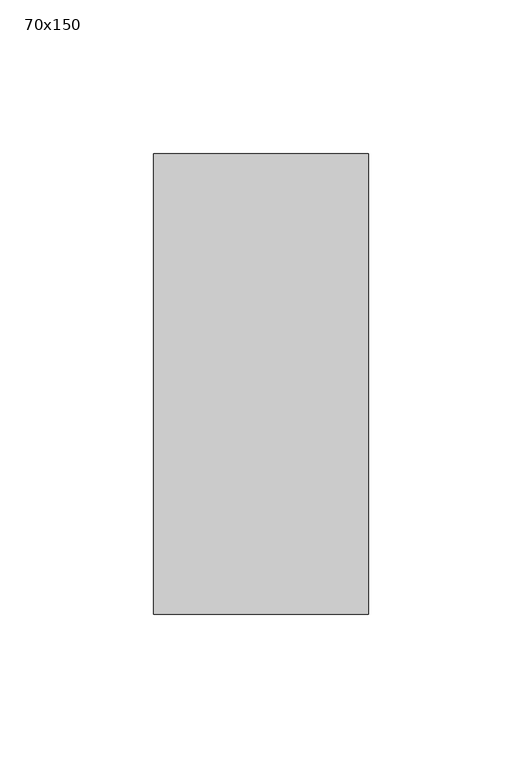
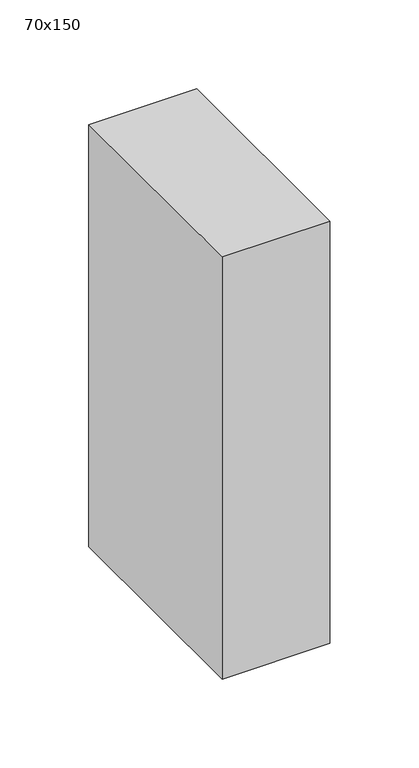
"""IFC4 building model written with IfcOpenShell, lengths in millimetres: member geometry, 長方形のマリオン : 70x150."""

import ifcopenshell
import ifcopenshell.guid

model = None  # the IFC model being written
_history = None  # IfcOwnerHistory: only IFC2X3 demands one
_inside = {}  # id of a spatial element -> (the spatial element, [elements in it])
_under = {}  # id of a project, library or spatial element -> (it, [spatial elements below it])
_declared = {}  # id of a project -> (the project, [libraries it declares])
_typed = {}  # id of a type object -> (the type object, [elements of that type])
_made_of = {}  # id of a material, layer set ... -> (it, [elements and type objects made of it])


def new_model(schema):
    """Start an empty IFC model of exactly this schema.

    Asked for "IFC4X3", IfcOpenShell would pick the latest addendum, in which some entities
    have other attributes; the version numbers below select the first issue.
    IFC2X3 requires an IfcOwnerHistory on every rooted entity: one is made here for all.
    """
    global model, _history
    if schema == "IFC4X3":
        model = ifcopenshell.file(schema_version=(4, 3, 0, 0))
    else:
        model = ifcopenshell.file(schema=schema)
    _inside.clear()
    _under.clear()
    _declared.clear()
    _typed.clear()
    _made_of.clear()
    _history = None
    if model.schema == "IFC2X3":
        org = make("IfcOrganization", Name="unknown")
        user = make(
            "IfcPersonAndOrganization",
            ThePerson=make("IfcPerson", FamilyName="unknown"),
            TheOrganization=org,
        )
        app = make(
            "IfcApplication",
            ApplicationDeveloper=org,
            Version="unknown",
            ApplicationFullName="unknown",
            ApplicationIdentifier="unknown",
        )
        _history = make(
            "IfcOwnerHistory",
            OwningUser=user,
            OwningApplication=app,
            ChangeAction="ADDED",
            CreationDate=0,
        )
    return model


def make(cls, **values):
    """One entity of the class cls with the attributes given. An attribute that is None is left unset."""
    return model.create_entity(
        cls, **{name: value for name, value in values.items() if value is not None}
    )


def rooted(cls, **values):
    """An entity with a GlobalId (a new one), such as an element, a storey or a relation."""
    return make(cls, GlobalId=ifcopenshell.guid.new(), OwnerHistory=_history, **values)


def si_unit(unit_type, name, prefix=None):
    """IfcSIUnit, for example si_unit("LENGTHUNIT", "METRE", prefix="MILLI")."""
    return make("IfcSIUnit", UnitType=unit_type, Prefix=prefix, Name=name)


def assignment(units):
    """IfcUnitAssignment: the units of a project."""
    return None if units is None else make("IfcUnitAssignment", Units=units)


def point(xyz):
    """IfcCartesianPoint."""
    return None if xyz is None else make("IfcCartesianPoint", Coordinates=xyz)


def direction(xyz):
    """IfcDirection."""
    return None if xyz is None else make("IfcDirection", DirectionRatios=xyz)


def frame(location, z_axis=None, x_axis=None):
    """IfcAxis2Placement3D, a coordinate frame: its origin and axes. An axis left out is left unset."""
    return make(
        "IfcAxis2Placement3D",
        Location=point(location),
        Axis=direction(z_axis),
        RefDirection=direction(x_axis),
    )


def origin():
    """The frame at (0, 0, 0) with its axes left unset."""
    return frame((0.0, 0.0, 0.0))


def place(relative_to, where):
    """IfcLocalPlacement: puts the frame where relative to a parent placement (None: the world)."""
    return make(
        "IfcLocalPlacement", PlacementRelTo=relative_to, RelativePlacement=where
    )


def context(
    kind, dimensions, precision=None, world=None, true_north=None, identifier=None
):
    """IfcGeometricRepresentationContext, for example the 3D "Model" context."""
    return make(
        "IfcGeometricRepresentationContext",
        ContextIdentifier=identifier,
        ContextType=kind,
        CoordinateSpaceDimension=dimensions,
        Precision=precision,
        WorldCoordinateSystem=world,
        TrueNorth=true_north,
    )


def project(units=None, contexts=None):
    """IfcProject with its units and contexts."""
    return rooted(
        "IfcProject",
        Name="project",
        RepresentationContexts=contexts,
        UnitsInContext=assignment(units),
    )


def spatial(cls, under=None, at=None, **own):
    """A site, building, storey or space (cls), placed at a placement, below another one or the project."""
    s = rooted(cls, ObjectPlacement=at, **own)
    if under is not None:
        _under.setdefault(under.id(), (under, []))[1].append(s)
    return s


def polyline(points):
    """IfcPolyline through the points."""
    return make("IfcPolyline", Points=[point(p) for p in points])


def outline(outer, holes=None, kind="AREA"):
    """IfcArbitraryClosedProfileDef: a profile drawn as a closed curve; with holes, ...WithVoids."""
    if holes is None:
        return make("IfcArbitraryClosedProfileDef", ProfileType=kind, OuterCurve=outer)
    return make(
        "IfcArbitraryProfileDefWithVoids",
        ProfileType=kind,
        OuterCurve=outer,
        InnerCurves=holes,
    )


def extrude(swept, where, along, depth):
    """IfcExtrudedAreaSolid: the profile swept, set in the frame where, extruded along a direction by depth."""
    return make(
        "IfcExtrudedAreaSolid",
        SweptArea=swept,
        Position=where,
        ExtrudedDirection=direction(along),
        Depth=depth,
    )


def shape(context_of_items, identifier, shape_type, items):
    """IfcShapeRepresentation: the items that make up one representation, for example the "Body"."""
    return make(
        "IfcShapeRepresentation",
        ContextOfItems=context_of_items,
        RepresentationIdentifier=identifier,
        RepresentationType=shape_type,
        Items=items,
    )


def source(mapping_origin, context_of_items, identifier, shape_type, items):
    """IfcRepresentationMap: a shape defined once, which mapped items show again and again."""
    return make(
        "IfcRepresentationMap",
        MappingOrigin=mapping_origin,
        MappedRepresentation=shape(context_of_items, identifier, shape_type, items),
    )


def transform(
    local_origin,
    x_axis=None,
    y_axis=None,
    z_axis=None,
    scale=None,
    scale2=None,
    scale3=None,
    uniform=True,
):
    """IfcCartesianTransformationOperator3D, or its non-uniform kind. x_axis, y_axis, z_axis: its Axis1, 2, 3."""
    if uniform:
        return make(
            "IfcCartesianTransformationOperator3D",
            Axis1=direction(x_axis),
            Axis2=direction(y_axis),
            LocalOrigin=point(local_origin),
            Scale=scale,
            Axis3=direction(z_axis),
        )
    return make(
        "IfcCartesianTransformationOperator3DnonUniform",
        Axis1=direction(x_axis),
        Axis2=direction(y_axis),
        LocalOrigin=point(local_origin),
        Scale=scale,
        Axis3=direction(z_axis),
        Scale2=scale2,
        Scale3=scale3,
    )


def mapped(mapping_source, mapping_target):
    """IfcMappedItem: shows the shape of a source again, moved by a transform."""
    return make(
        "IfcMappedItem", MappingSource=mapping_source, MappingTarget=mapping_target
    )


def made_of(thing, what):
    """Note that an element or type object is made of a material, layer set ...; save() writes the relation."""
    if what is not None:
        _made_of.setdefault(what.id(), (what, []))[1].append(thing)
    return thing


def element(
    cls,
    number,
    at=None,
    inside=None,
    cuts=None,
    type_object=None,
    material=None,
    context=None,
    identifier="Body",
    shape_type=None,
    held_by="IfcProductDefinitionShape",
    body=None,
    shapes=None,
    **own,
):
    """One element of the class cls, such as IfcWall. Its Tag is "e" and its number.

    at: its placement. inside: the storey or other place that contains it. cuts: it is an
    opening in that element (IfcRelVoidsElement). A single representation is given by context,
    identifier, shape_type and body (its items); several are given by shapes. held_by: the class
    of the entity that holds the representations. save() writes the other relations.
    """
    e = rooted(cls, Tag="e%d" % number, ObjectPlacement=at, **own)
    if body is not None:
        shapes = [shape(context, identifier, shape_type, body)]
    if shapes is not None:
        e.Representation = make(held_by, Representations=shapes)
    if inside is not None:
        _inside.setdefault(inside.id(), (inside, []))[1].append(e)
    if cuts is not None:
        rooted(
            "IfcRelVoidsElement", RelatingBuildingElement=cuts, RelatedOpeningElement=e
        )
    if type_object is not None:
        _typed.setdefault(type_object.id(), (type_object, []))[1].append(e)
    return made_of(e, material)


def aggregate(whole, parts):
    """IfcRelAggregates: a whole, such as a stair, and the parts it consists of."""
    return rooted("IfcRelAggregates", RelatingObject=whole, RelatedObjects=parts)


def save(model, path):
    """Write the relations noted so far, then the file.

    IfcRelAggregates (storeys below a building ...), IfcRelContainedInSpatialStructure (elements
    in a storey), IfcRelDefinesByType, IfcRelAssociatesMaterial and IfcRelDeclares: one each for
    every whole, place, type object, material and project.
    """
    for whole, parts in _under.values():
        aggregate(whole, parts)
    for where, things in _inside.values():
        rooted(
            "IfcRelContainedInSpatialStructure",
            RelatedElements=things,
            RelatingStructure=where,
        )
    for kind, things in _typed.values():
        rooted("IfcRelDefinesByType", RelatedObjects=things, RelatingType=kind)
    for what, things in _made_of.values():
        rooted("IfcRelAssociatesMaterial", RelatedObjects=things, RelatingMaterial=what)
    for by, libraries in _declared.values():
        rooted("IfcRelDeclares", RelatingContext=by, RelatedDefinitions=libraries)
    model.write(path)


def member_70x150_5d60a7e3(model_context):
    return source(origin(), model_context, "Body", "SweptSolid", [
        extrude(outline(polyline([(0.0, 75.0), (0.0, -75.0), (-70.0, -75.0), (-70.0, 75.0), (0.0, 75.0)])), frame((0.0, 0.0, -290.0), z_axis=(0.0, 0.0, 1.0), x_axis=(1.0, 0.0, 0.0)), (0.0, 0.0, 1.0), 290.0),
    ])


if __name__ == "__main__":
    model = new_model("IFC4")
    model_context = context("Model", 3, world=origin())
    ifc_project = project(units=[si_unit("LENGTHUNIT", "METRE", prefix="MILLI")], contexts=[model_context])
    site = spatial("IfcSite", under=ifc_project)
    building = spatial("IfcBuilding", under=site)
    placement = place(None, origin())
    member_70x150_shape = member_70x150_5d60a7e3(model_context)
    element("IfcMember", 1, ObjectType="長方形のマリオン : 70x150", at=placement, inside=building, context=model_context, shape_type="MappedRepresentation", body=[
        mapped(member_70x150_shape, transform((0.0, 0.0, 0.0), x_axis=(1.0, 0.0, 0.0), y_axis=(0.0, 1.0, 0.0), z_axis=(0.0, 0.0, 1.0))),
    ])
    save(model, "model.ifc")
